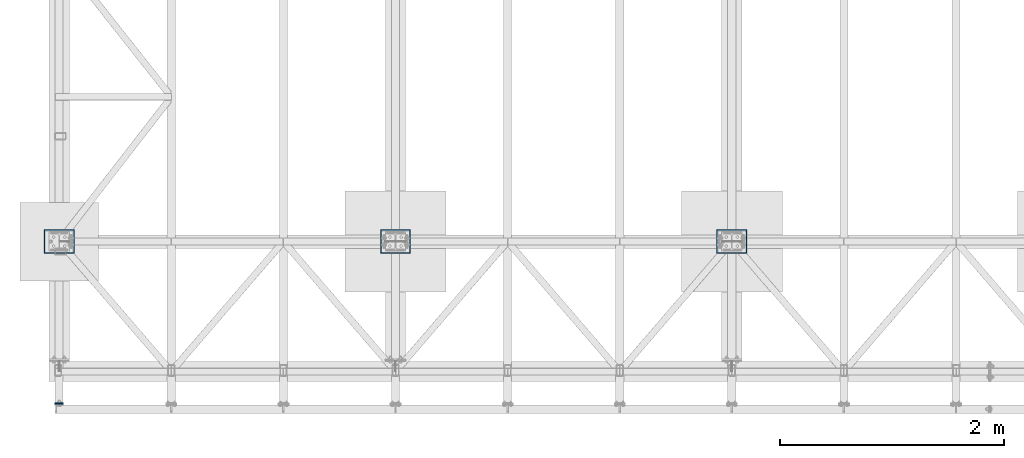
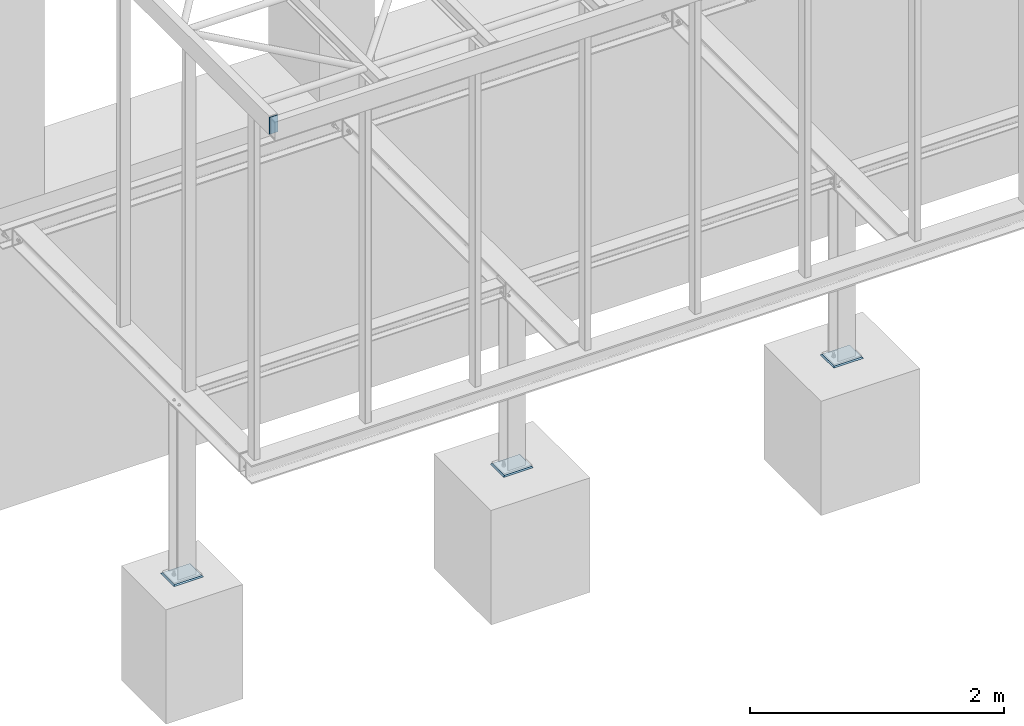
# One storey, part 7 of 23: 4 plates, 4 elements without a shape of their own.
"""IFC2X3 building model written with IfcOpenShell, lengths in millimetres."""

from ifc_helpers import new_model, si_unit, frame, origin_with_axes, place, context, subcontext, project, spatial, polyline, outline, extrude, boolean, material, type_object, element, aggregate, save


model = new_model("IFC2X3")

# Units and contexts
model_context = context("Model", 3, precision=1e-05, world=origin_with_axes())
body_context = subcontext(model_context, "Body", "Model", "MODEL_VIEW")
ifc_project = project(units=[si_unit("LENGTHUNIT", "METRE", prefix="MILLI"), si_unit("AREAUNIT", "SQUARE_METRE"), si_unit("VOLUMEUNIT", "CUBIC_METRE"), si_unit("MASSUNIT", "GRAM", prefix="KILO"), si_unit("TIMEUNIT", "SECOND"), si_unit("PLANEANGLEUNIT", "RADIAN"), si_unit("SOLIDANGLEUNIT", "STERADIAN"), si_unit("THERMODYNAMICTEMPERATUREUNIT", "DEGREE_CELSIUS"), si_unit("LUMINOUSINTENSITYUNIT", "LUMEN")], contexts=[model_context])

# Site, building, storey
site_placement = place(None, origin_with_axes())
site = spatial("IfcSite", under=ifc_project, at=site_placement, Name="Undefined", CompositionType="ELEMENT")
building_placement = place(site_placement, origin_with_axes())
building = spatial("IfcBuilding", under=site, at=building_placement, Name="Undefined", CompositionType="ELEMENT")
storey_placement = place(building_placement, origin_with_axes())
storey = spatial("IfcBuildingStorey", under=building, at=storey_placement, Name="Undefined", CompositionType="ELEMENT", Elevation=0.0)

# Assembly, plate
assembly_1_placement = place(storey_placement, origin_with_axes())
assembly_1 = element("IfcElementAssembly", 1, at=assembly_1_placement, inside=storey, Name="GROUT", AssemblyPlace="NOTDEFINED", PredefinedType="NOTDEFINED")
ifc_material_1 = material(Name="Undefined/GROUT")
plate_type_1 = type_object("IfcPlateType", Name="PL10*212", PredefinedType="NOTDEFINED")
plate_1_placement = place(assembly_1_placement, frame((6185.0, 1154.0, -1995.0), z_axis=(0.0, 0.0, 1.0), x_axis=(0.0, 1.0, 0.0)))
plate_1 = element("IfcPlate", 2, at=plate_1_placement, type_object=plate_type_1, material=ifc_material_1, Name="GROUT", ObjectType="PL10*212", context=body_context, shape_type="CSG", body=[
    boolean("DIFFERENCE", boolean("DIFFERENCE", boolean("DIFFERENCE", boolean("DIFFERENCE", extrude(outline(polyline([(0.0, 0.0), (212.0, 0.0), (212.0, 270.0), (0.0, 270.0), (0.0, 0.0)])), frame((0.0, 0.0, -5.0), z_axis=(0.0, 0.0, 1.0), x_axis=(1.0, 0.0, 0.0)), (0.0, 0.0, 1.0), 10.0), extrude(outline(polyline([(0.0, 0.0), (30.1421356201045, -2.00088834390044e-11), (15.0710678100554, 15.0710678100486), (0.0, 0.0)])), frame((-5.65685424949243, 288.0, -10.6568542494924), z_axis=(0.0, -1.0, 0.0), x_axis=(0.707106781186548, 0.0, 0.707106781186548)), (0.0, 0.0, 1.0), 306.0)), extrude(outline(polyline([(0.0, 0.0), (28.1421356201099, -2.91038304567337e-11), (14.0710678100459, 14.0710678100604), (0.0, 0.0)])), frame((258.0, 274.949747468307, -9.94974746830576), z_axis=(-1.0, 0.0, 0.0), x_axis=(0.0, -0.707106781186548, 0.707106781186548)), (0.0, 0.0, 1.0), 304.0)), extrude(outline(polyline([(0.0, 0.0), (26.1421356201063, -2.1600499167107e-11), (13.0710678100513, 13.0710678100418), (0.0, 0.0)])), frame((216.242640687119, -16.0, -9.24264068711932), z_axis=(0.0, 1.0, 0.0), x_axis=(-0.707106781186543, 0.0, 0.707106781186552)), (0.0, 0.0, 1.0), 302.0)), extrude(outline(polyline([(0.0, 0.0), (24.1421356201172, -1.81898940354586e-11), (12.0710678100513, 12.071067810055), (0.0, 0.0)])), frame((-44.0, -3.53553390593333, -8.53553390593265), z_axis=(1.0, 0.0, 0.0), x_axis=(0.0, 0.707106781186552, 0.707106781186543)), (0.0, 0.0, 1.0), 300.0)),
])
aggregate(assembly_1, [plate_1])

assembly_2_placement = place(storey_placement, origin_with_axes())
assembly_2 = element("IfcElementAssembly", 3, at=assembly_2_placement, inside=storey, Name="GROUT", AssemblyPlace="NOTDEFINED", PredefinedType="NOTDEFINED")
plate_2_placement = place(assembly_2_placement, frame((3185.0, 1154.0, -1995.0), z_axis=(0.0, 0.0, 1.0), x_axis=(0.0, 1.0, 0.0)))
plate_2 = element("IfcPlate", 4, at=plate_2_placement, type_object=plate_type_1, material=ifc_material_1, Name="GROUT", ObjectType="PL10*212", context=body_context, shape_type="CSG", body=[
    boolean("DIFFERENCE", boolean("DIFFERENCE", boolean("DIFFERENCE", boolean("DIFFERENCE", extrude(outline(polyline([(0.0, 0.0), (212.0, 0.0), (212.0, 270.0), (0.0, 270.0), (0.0, 0.0)])), frame((0.0, 0.0, -5.0), z_axis=(0.0, 0.0, 1.0), x_axis=(1.0, 0.0, 0.0)), (0.0, 0.0, 1.0), 10.0), extrude(outline(polyline([(0.0, 0.0), (30.1421356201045, -2.00088834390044e-11), (15.0710678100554, 15.0710678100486), (0.0, 0.0)])), frame((-5.65685424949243, 288.0, -10.6568542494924), z_axis=(0.0, -1.0, 0.0), x_axis=(0.707106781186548, 0.0, 0.707106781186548)), (0.0, 0.0, 1.0), 306.0)), extrude(outline(polyline([(0.0, 0.0), (28.1421356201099, -2.91038304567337e-11), (14.0710678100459, 14.0710678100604), (0.0, 0.0)])), frame((258.0, 274.949747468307, -9.94974746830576), z_axis=(-1.0, 0.0, 0.0), x_axis=(0.0, -0.707106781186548, 0.707106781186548)), (0.0, 0.0, 1.0), 304.0)), extrude(outline(polyline([(0.0, 0.0), (26.1421356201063, -2.1600499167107e-11), (13.0710678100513, 13.0710678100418), (0.0, 0.0)])), frame((216.242640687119, -16.0, -9.24264068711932), z_axis=(0.0, 1.0, 0.0), x_axis=(-0.707106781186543, 0.0, 0.707106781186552)), (0.0, 0.0, 1.0), 302.0)), extrude(outline(polyline([(0.0, 0.0), (24.1421356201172, -1.81898940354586e-11), (12.0710678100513, 12.071067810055), (0.0, 0.0)])), frame((-44.0, -3.53553390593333, -8.53553390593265), z_axis=(1.0, 0.0, 0.0), x_axis=(0.0, 0.707106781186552, 0.707106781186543)), (0.0, 0.0, 1.0), 300.0)),
])
aggregate(assembly_2, [plate_2])

assembly_3_placement = place(storey_placement, origin_with_axes())
assembly_3 = element("IfcElementAssembly", 5, at=assembly_3_placement, inside=storey, Name="GROUT", AssemblyPlace="NOTDEFINED", PredefinedType="NOTDEFINED")
plate_3_placement = place(assembly_3_placement, frame((185.0, 1154.0, -1995.0), z_axis=(0.0, 0.0, 1.0), x_axis=(0.0, 1.0, 0.0)))
plate_3 = element("IfcPlate", 6, at=plate_3_placement, type_object=plate_type_1, material=ifc_material_1, Name="GROUT", ObjectType="PL10*212", context=body_context, shape_type="CSG", body=[
    boolean("DIFFERENCE", boolean("DIFFERENCE", boolean("DIFFERENCE", boolean("DIFFERENCE", extrude(outline(polyline([(0.0, 0.0), (212.0, 0.0), (212.0, 270.0), (0.0, 270.0), (0.0, 0.0)])), frame((0.0, 0.0, -5.0), z_axis=(0.0, 0.0, 1.0), x_axis=(1.0, 0.0, 0.0)), (0.0, 0.0, 1.0), 10.0), extrude(outline(polyline([(0.0, 0.0), (30.1421356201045, -2.00088834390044e-11), (15.0710678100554, 15.0710678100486), (0.0, 0.0)])), frame((-5.65685424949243, 288.0, -10.6568542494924), z_axis=(0.0, -1.0, 0.0), x_axis=(0.707106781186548, 0.0, 0.707106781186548)), (0.0, 0.0, 1.0), 306.0)), extrude(outline(polyline([(0.0, 0.0), (28.1421356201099, -2.91038304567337e-11), (14.0710678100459, 14.0710678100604), (0.0, 0.0)])), frame((258.0, 274.949747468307, -9.94974746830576), z_axis=(-1.0, 0.0, 0.0), x_axis=(0.0, -0.707106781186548, 0.707106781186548)), (0.0, 0.0, 1.0), 304.0)), extrude(outline(polyline([(0.0, 0.0), (26.1421356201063, -2.1600499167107e-11), (13.0710678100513, 13.0710678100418), (0.0, 0.0)])), frame((216.242640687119, -16.0, -9.24264068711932), z_axis=(0.0, 1.0, 0.0), x_axis=(-0.707106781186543, 0.0, 0.707106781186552)), (0.0, 0.0, 1.0), 302.0)), extrude(outline(polyline([(0.0, 0.0), (24.1421356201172, -1.81898940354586e-11), (12.0710678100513, 12.071067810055), (0.0, 0.0)])), frame((-44.0, -3.53553390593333, -8.53553390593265), z_axis=(1.0, 0.0, 0.0), x_axis=(0.0, 0.707106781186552, 0.707106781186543)), (0.0, 0.0, 1.0), 300.0)),
])
aggregate(assembly_3, [plate_3])

assembly_4_placement = place(storey_placement, origin_with_axes())
assembly_4 = element("IfcElementAssembly", 7, at=assembly_4_placement, inside=storey, Name="Steel Assembly", AssemblyPlace="NOTDEFINED", PredefinedType="RIGID_FRAME")
ifc_material_2 = material(Name="STEEL/S235JR")
plate_type_2 = type_object("IfcPlateType", Name="PL10*75", PredefinedType="NOTDEFINED")
plate_4_placement = place(assembly_4_placement, frame((85.0, -185.0, 3130.0), z_axis=(0.0, -1.0, 0.0), x_axis=(0.0, 0.0, 1.0)))
plate_4 = element("IfcPlate", 8, at=plate_4_placement, type_object=plate_type_2, material=ifc_material_2, Name="PLECH", ObjectType="PL10*75", context=body_context, shape_type="SweptSolid", body=[
    extrude(outline(polyline([(0.0, 0.0), (160.0, 0.0), (160.0, 75.0), (0.0, 75.0), (0.0, 0.0)])), frame((0.0, 0.0, -5.0), z_axis=(0.0, 0.0, 1.0), x_axis=(1.0, 0.0, 0.0)), (0.0, 0.0, 1.0), 10.0),
])
aggregate(assembly_4, [plate_4])

save(model, "model.ifc")
